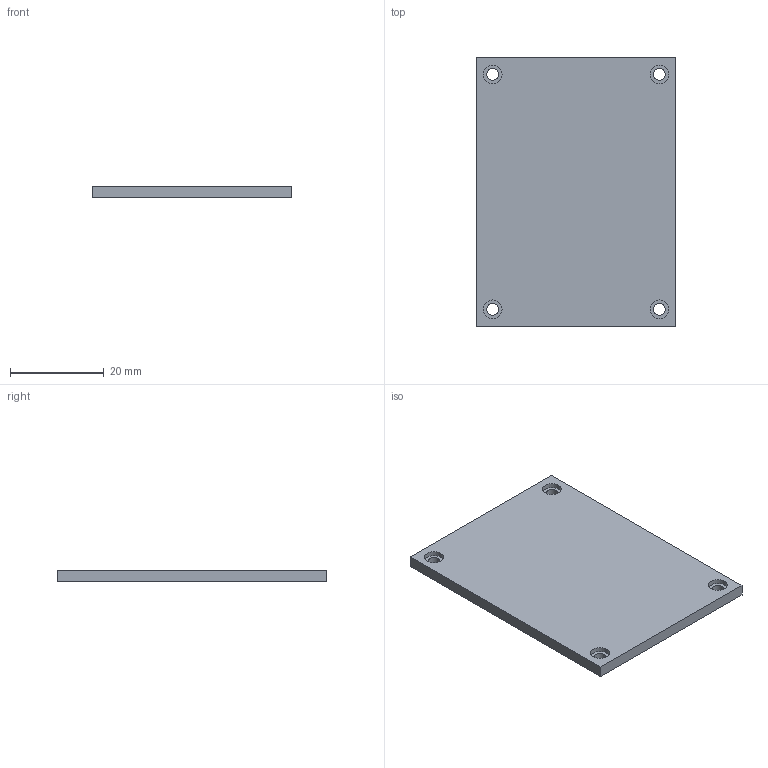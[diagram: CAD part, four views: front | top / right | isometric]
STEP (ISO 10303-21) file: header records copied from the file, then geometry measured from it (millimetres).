
FILE_DESCRIPTION(('FreeCAD Model'),'2;1');
FILE_NAME('Open CASCADE Shape Model','2026-01-28T11:34:20',(''),(''), 'Open CASCADE STEP processor 7.8','FreeCAD','Unknown');
FILE_SCHEMA(('AUTOMOTIVE_DESIGN { 1 0 10303 214 1 1 1 1 }'));
Length unit declared in the file: millimetre
Products named in the file (2): Insulation Plate Part; Insulation Plate Body
Assembly tree (1 placements, depth 2):
  Insulation Plate Part
    Insulation Plate Body
Bounding box: 42.54 x 57.45 x 2.5 mm (x, y, z)
Volume: 3080.6 mm3; surface area: 5717.9 mm2
Topology: 1 solids, 1 shells, 27 faces, 60 edges, 40 vertices
Faces by surface type: plane 15, cylinder 12
Full cylindrical faces by diameter (mm): 2.5 x4, 4 x4
Entity records: 1666 total; most frequent: CARTESIAN_POINT 393, DIRECTION 238, LINE 132, VECTOR 132, ORIENTED_EDGE 120, PCURVE 120, DEFINITIONAL_REPRESENTATION 120, EDGE_CURVE 60
